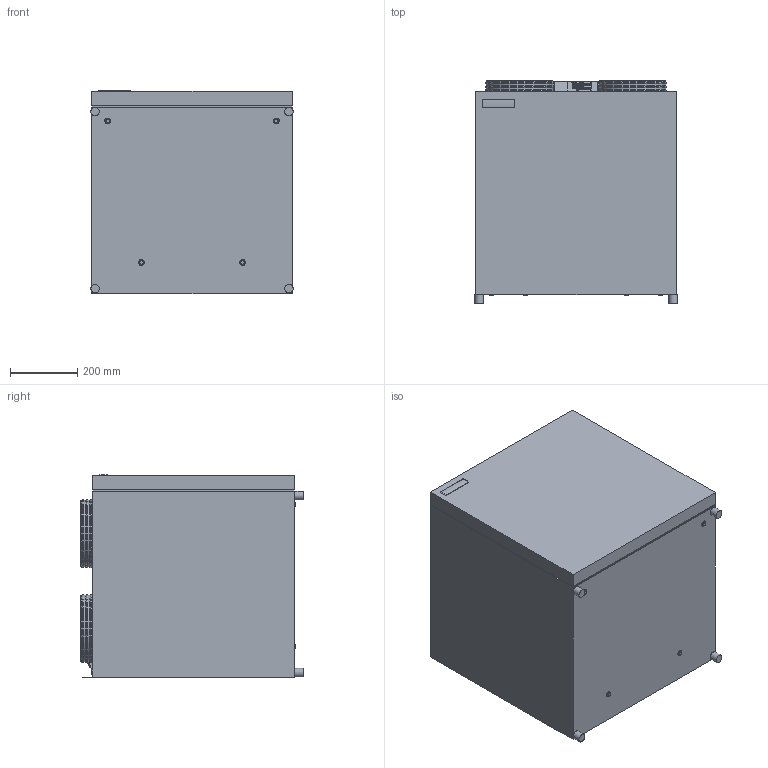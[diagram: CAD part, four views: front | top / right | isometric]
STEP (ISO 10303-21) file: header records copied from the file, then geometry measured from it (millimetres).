
FILE_DESCRIPTION(/* description */ (''),/* implementation_level */ '2;1');
FILE_NAME(/* name */ 'C:\WF Home\Thomas Mønsted\01 - Ventilation\BIM\ECO360R\ECO360R - BIM.stp',/* time_stamp */ '2020-06-25T12:57:07+02:00',/* author */ ('3113thmo'),/* organization */ (''),/* preprocessor_version */ 'ST-DEVELOPER v16.13',/* originating_system */ 'Autodesk Inventor 2018',/* authorisation */ '');
FILE_SCHEMA (('AUTOMOTIVE_DESIGN { 1 0 10303 214 3 1 1 }'));
Length unit declared in the file: millimetre
Products named in the file (1): B3
Bounding box: 600.4 x 660.5 x 602.58 mm (x, y, z)
Volume: 216293266.1 mm3; surface area: 2363299 mm2
Topology: 1 solids, 1 shells, 1045 faces, 2667 edges, 1740 vertices
Faces by surface type: plane 642, bspline 240, cylinder 93, torus 46, cone 18, sphere 6
Full cylindrical faces by diameter (mm): 4 x2, 5 x2, 6 x6, 8 x8, 25 x4
Entity records: 36544 total; most frequent: CARTESIAN_POINT 12021, ORIENTED_EDGE 5106, DIRECTION 3965, EDGE_CURVE 2553, LINE 1793, VECTOR 1793, VERTEX_POINT 1712, EDGE_LOOP 1255
